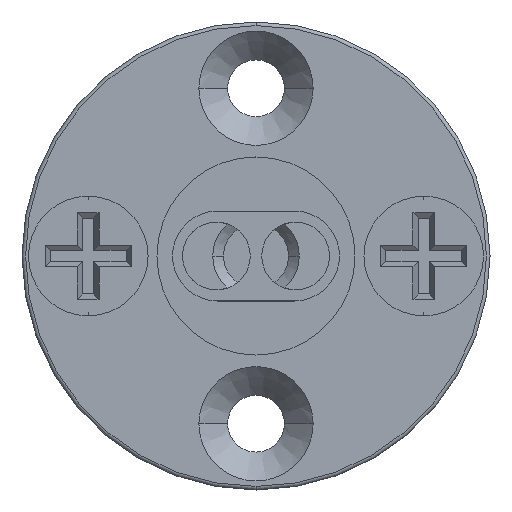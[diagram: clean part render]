
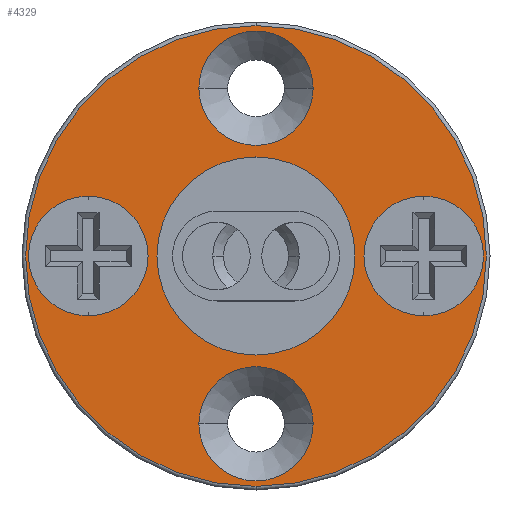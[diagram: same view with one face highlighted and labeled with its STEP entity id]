
A CAD part, front view. The second image highlights one B-rep face of the part: STEP entity #4329.
In plain terms, the highlighted planar face has unit normal (0, -1, 0).
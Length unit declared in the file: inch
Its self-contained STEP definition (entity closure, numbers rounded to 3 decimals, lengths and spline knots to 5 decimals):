
#47 = EDGE_CURVE ( 'NONE', #7063, #6202, #3647, .T. ) ;
#107 = CARTESIAN_POINT ( 'NONE',  ( -0.233, -0.125, 0. ) ) ;
#180 = DIRECTION ( 'NONE',  ( 0., 0., -1. ) ) ;
#246 = CARTESIAN_POINT ( 'NONE',  ( 0., -0.125, 0.1375 ) ) ;
#282 = DIRECTION ( 'NONE',  ( 0., 0., 1. ) ) ;
#320 = DIRECTION ( 'NONE',  ( 0., 1., 0. ) ) ;
#340 = CARTESIAN_POINT ( 'NONE',  ( 0., -0.125, 0. ) ) ;
#462 = EDGE_LOOP ( 'NONE', ( #2401, #7266 ) ) ;
#578 = DIRECTION ( 'NONE',  ( 0., 0., -1. ) ) ;
#596 = DIRECTION ( 'NONE',  ( 0., 0., -1. ) ) ;
#615 = EDGE_LOOP ( 'NONE', ( #5727, #715 ) ) ;
#629 = FACE_BOUND ( 'NONE', #6472, .T. ) ;
#715 = ORIENTED_EDGE ( 'NONE', *, *, #7059, .T. ) ;
#812 = EDGE_CURVE ( 'NONE', #6342, #2637, #2209, .T. ) ;
#840 = DIRECTION ( 'NONE',  ( 0., 0., -1. ) ) ;
#867 = DIRECTION ( 'NONE',  ( 0., -1., 0. ) ) ;
#940 = CARTESIAN_POINT ( 'NONE',  ( 0.233, -0.125, -0.083 ) ) ;
#1004 = CARTESIAN_POINT ( 'NONE',  ( 0.233, -0.125, 0.083 ) ) ;
#1026 = EDGE_LOOP ( 'NONE', ( #6365, #4784 ) ) ;
#1090 = CIRCLE ( 'NONE', #3632, 0.07937 ) ;
#1175 = DIRECTION ( 'NONE',  ( 0., 1., 0. ) ) ;
#1245 = DIRECTION ( 'NONE',  ( 0., 1., 0. ) ) ;
#1271 = VERTEX_POINT ( 'NONE', #5759 ) ;
#1295 = DIRECTION ( 'NONE',  ( 0., 0., -1. ) ) ;
#1333 = AXIS2_PLACEMENT_3D ( 'NONE', #1751, #3020, #6446 ) ;
#1353 = CARTESIAN_POINT ( 'NONE',  ( -0.233, -0.125, -0.083 ) ) ;
#1380 = CARTESIAN_POINT ( 'NONE',  ( 0., -0.125, -0.32 ) ) ;
#1632 = FACE_BOUND ( 'NONE', #615, .T. ) ;
#1637 = DIRECTION ( 'NONE',  ( 0., 0., -1. ) ) ;
#1695 = AXIS2_PLACEMENT_3D ( 'NONE', #5299, #1245, #3604 ) ;
#1714 = CIRCLE ( 'NONE', #2306, 0.083 ) ;
#1751 = CARTESIAN_POINT ( 'NONE',  ( 0., -0.125, 0. ) ) ;
#1814 = VERTEX_POINT ( 'NONE', #3409 ) ;
#1968 = DIRECTION ( 'NONE',  ( 0., 1., 0. ) ) ;
#2165 = EDGE_CURVE ( 'NONE', #2307, #1271, #1714, .T. ) ;
#2185 = FACE_BOUND ( 'NONE', #4246, .T. ) ;
#2209 = CIRCLE ( 'NONE', #2813, 0.32 ) ;
#2306 = AXIS2_PLACEMENT_3D ( 'NONE', #107, #1175, #1295 ) ;
#2307 = VERTEX_POINT ( 'NONE', #1353 ) ;
#2375 = VERTEX_POINT ( 'NONE', #5383 ) ;
#2401 = ORIENTED_EDGE ( 'NONE', *, *, #812, .T. ) ;
#2510 = DIRECTION ( 'NONE',  ( 0., 1., 0. ) ) ;
#2524 = CARTESIAN_POINT ( 'NONE',  ( 0., -0.125, 0. ) ) ;
#2569 = VERTEX_POINT ( 'NONE', #4983 ) ;
#2589 = DIRECTION ( 'NONE',  ( 0., 0., -1. ) ) ;
#2637 = VERTEX_POINT ( 'NONE', #7133 ) ;
#2767 = DIRECTION ( 'NONE',  ( 0., -1., 0. ) ) ;
#2770 = CARTESIAN_POINT ( 'NONE',  ( 0.233, -0.125, 0. ) ) ;
#2803 = CARTESIAN_POINT ( 'NONE',  ( 0., -0.125, 0. ) ) ;
#2813 = AXIS2_PLACEMENT_3D ( 'NONE', #2524, #867, #840 ) ;
#2830 = CIRCLE ( 'NONE', #6436, 0.1375 ) ;
#2836 = PLANE ( 'NONE',  #1333 ) ;
#2857 = EDGE_CURVE ( 'NONE', #1271, #2307, #4006, .T. ) ;
#2901 = FACE_BOUND ( 'NONE', #1026, .T. ) ;
#2936 = AXIS2_PLACEMENT_3D ( 'NONE', #3435, #5730, #596 ) ;
#2975 = ORIENTED_EDGE ( 'NONE', *, *, #5044, .T. ) ;
#3016 = CARTESIAN_POINT ( 'NONE',  ( -0.07937, -0.125, 0.233 ) ) ;
#3018 = DIRECTION ( 'NONE',  ( 0., -1., 0. ) ) ;
#3020 = DIRECTION ( 'NONE',  ( 0., -1., 0. ) ) ;
#3021 = CARTESIAN_POINT ( 'NONE',  ( -0.233, -0.125, 0. ) ) ;
#3068 = AXIS2_PLACEMENT_3D ( 'NONE', #6195, #6049, #3341 ) ;
#3112 = ORIENTED_EDGE ( 'NONE', *, *, #2165, .T. ) ;
#3250 = ORIENTED_EDGE ( 'NONE', *, *, #3955, .T. ) ;
#3277 = AXIS2_PLACEMENT_3D ( 'NONE', #2770, #5705, #578 ) ;
#3286 = CARTESIAN_POINT ( 'NONE',  ( -0.07937, -0.125, -0.233 ) ) ;
#3341 = DIRECTION ( 'NONE',  ( 0., 0., -1. ) ) ;
#3406 = DIRECTION ( 'NONE',  ( 0., 0., 1. ) ) ;
#3409 = CARTESIAN_POINT ( 'NONE',  ( 0., -0.125, -0.1375 ) ) ;
#3415 = EDGE_CURVE ( 'NONE', #3885, #1814, #3908, .T. ) ;
#3435 = CARTESIAN_POINT ( 'NONE',  ( 0., -0.125, -0.233 ) ) ;
#3569 = AXIS2_PLACEMENT_3D ( 'NONE', #2803, #2767, #3406 ) ;
#3604 = DIRECTION ( 'NONE',  ( 0., 0., -1. ) ) ;
#3632 = AXIS2_PLACEMENT_3D ( 'NONE', #4153, #1968, #180 ) ;
#3647 = CIRCLE ( 'NONE', #3277, 0.083 ) ;
#3698 = ORIENTED_EDGE ( 'NONE', *, *, #4372, .T. ) ;
#3885 = VERTEX_POINT ( 'NONE', #246 ) ;
#3908 = CIRCLE ( 'NONE', #3569, 0.1375 ) ;
#3955 = EDGE_CURVE ( 'NONE', #5139, #2375, #6813, .T. ) ;
#4006 = CIRCLE ( 'NONE', #6536, 0.083 ) ;
#4153 = CARTESIAN_POINT ( 'NONE',  ( 0., -0.125, -0.233 ) ) ;
#4246 = EDGE_LOOP ( 'NONE', ( #3112, #4894 ) ) ;
#4248 = VERTEX_POINT ( 'NONE', #3286 ) ;
#4261 = DIRECTION ( 'NONE',  ( 0., 0., -1. ) ) ;
#4288 = EDGE_LOOP ( 'NONE', ( #3698, #2975 ) ) ;
#4329 = ADVANCED_FACE ( 'NONE', ( #6366, #1632, #2185, #5615, #629, #2901 ), #2836, .T. ) ;
#4364 = EDGE_CURVE ( 'NONE', #2375, #5139, #4929, .T. ) ;
#4372 = EDGE_CURVE ( 'NONE', #2569, #4248, #1090, .T. ) ;
#4784 = ORIENTED_EDGE ( 'NONE', *, *, #3415, .F. ) ;
#4894 = ORIENTED_EDGE ( 'NONE', *, *, #2857, .T. ) ;
#4929 = CIRCLE ( 'NONE', #1695, 0.07937 ) ;
#4948 = ORIENTED_EDGE ( 'NONE', *, *, #4364, .T. ) ;
#4983 = CARTESIAN_POINT ( 'NONE',  ( 0.07937, -0.125, -0.233 ) ) ;
#5031 = CARTESIAN_POINT ( 'NONE',  ( 0., -0.125, 0. ) ) ;
#5044 = EDGE_CURVE ( 'NONE', #4248, #2569, #6426, .T. ) ;
#5139 = VERTEX_POINT ( 'NONE', #3016 ) ;
#5216 = AXIS2_PLACEMENT_3D ( 'NONE', #5031, #5537, #1637 ) ;
#5299 = CARTESIAN_POINT ( 'NONE',  ( 0., -0.125, 0.233 ) ) ;
#5383 = CARTESIAN_POINT ( 'NONE',  ( 0.07937, -0.125, 0.233 ) ) ;
#5460 = CIRCLE ( 'NONE', #5216, 0.32 ) ;
#5537 = DIRECTION ( 'NONE',  ( 0., -1., 0. ) ) ;
#5615 = FACE_BOUND ( 'NONE', #4288, .T. ) ;
#5664 = EDGE_CURVE ( 'NONE', #2637, #6342, #5460, .T. ) ;
#5705 = DIRECTION ( 'NONE',  ( 0., 1., 0. ) ) ;
#5727 = ORIENTED_EDGE ( 'NONE', *, *, #47, .T. ) ;
#5730 = DIRECTION ( 'NONE',  ( 0., 1., 0. ) ) ;
#5759 = CARTESIAN_POINT ( 'NONE',  ( -0.233, -0.125, 0.083 ) ) ;
#5900 = CARTESIAN_POINT ( 'NONE',  ( 0., -0.125, 0.233 ) ) ;
#6049 = DIRECTION ( 'NONE',  ( 0., 1., 0. ) ) ;
#6195 = CARTESIAN_POINT ( 'NONE',  ( 0.233, -0.125, 0. ) ) ;
#6202 = VERTEX_POINT ( 'NONE', #1004 ) ;
#6302 = CIRCLE ( 'NONE', #3068, 0.083 ) ;
#6342 = VERTEX_POINT ( 'NONE', #1380 ) ;
#6365 = ORIENTED_EDGE ( 'NONE', *, *, #6921, .F. ) ;
#6366 = FACE_OUTER_BOUND ( 'NONE', #462, .T. ) ;
#6426 = CIRCLE ( 'NONE', #2936, 0.07937 ) ;
#6429 = AXIS2_PLACEMENT_3D ( 'NONE', #5900, #320, #2589 ) ;
#6436 = AXIS2_PLACEMENT_3D ( 'NONE', #340, #3018, #282 ) ;
#6446 = DIRECTION ( 'NONE',  ( 0., 0., 1. ) ) ;
#6472 = EDGE_LOOP ( 'NONE', ( #4948, #3250 ) ) ;
#6536 = AXIS2_PLACEMENT_3D ( 'NONE', #3021, #2510, #4261 ) ;
#6813 = CIRCLE ( 'NONE', #6429, 0.07937 ) ;
#6921 = EDGE_CURVE ( 'NONE', #1814, #3885, #2830, .T. ) ;
#7059 = EDGE_CURVE ( 'NONE', #6202, #7063, #6302, .T. ) ;
#7063 = VERTEX_POINT ( 'NONE', #940 ) ;
#7133 = CARTESIAN_POINT ( 'NONE',  ( 0., -0.125, 0.32 ) ) ;
#7266 = ORIENTED_EDGE ( 'NONE', *, *, #5664, .T. ) ;
